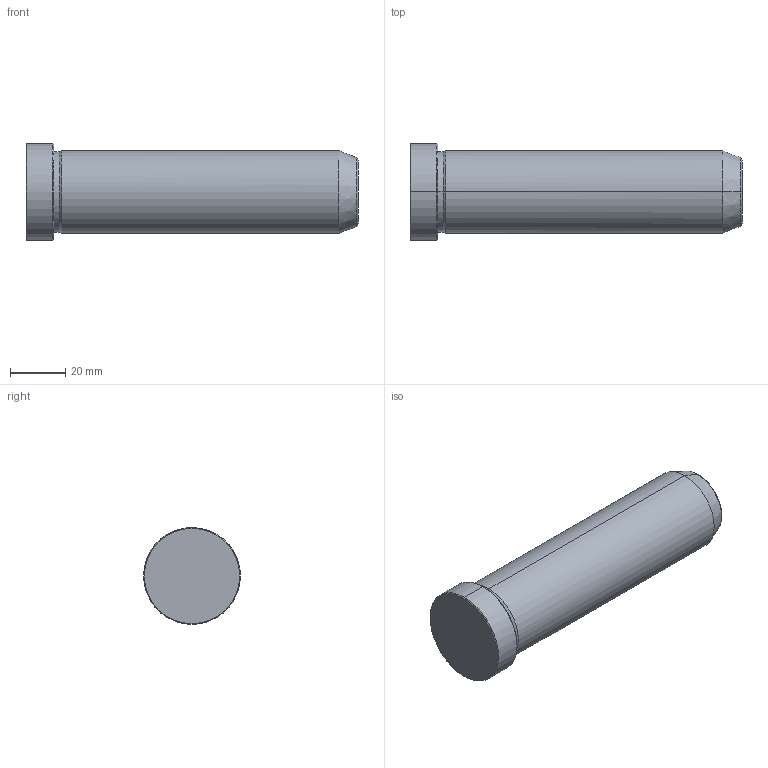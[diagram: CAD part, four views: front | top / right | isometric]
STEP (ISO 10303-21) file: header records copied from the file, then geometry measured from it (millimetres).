
FILE_DESCRIPTION(('CATIA V5 STEP Exchange'),'2;1');
FILE_NAME('C:\Users\Utente\Desktop\IO LAVORO\3D X SITO CF\X SITO\PLASTICA\549\549-30X120.stp','2021-12-17T14:47:07+00:00',('none'),('none'),'CATIA Version 5 Release 20 GA (IN-10)','CATIA V5 STEP AP203','none');
FILE_SCHEMA(('CONFIG_CONTROL_DESIGN'));
Length unit declared in the file: millimetre
Products named in the file (1): 549-30X120
Bounding box: 120 x 35 x 35 mm (x, y, z)
Volume: 86372.4 mm3; surface area: 13134 mm2
Topology: 1 solids, 1 shells, 19 faces, 56 edges, 40 vertices
Faces by surface type: cone 8, cylinder 6, plane 3, torus 2
Entity records: 736 total; most frequent: CARTESIAN_POINT 192, ORIENTED_EDGE 112, DIRECTION 86, EDGE_CURVE 56, AXIS2_PLACEMENT_3D 54, VERTEX_POINT 40, CIRCLE 34, EDGE_LOOP 20
